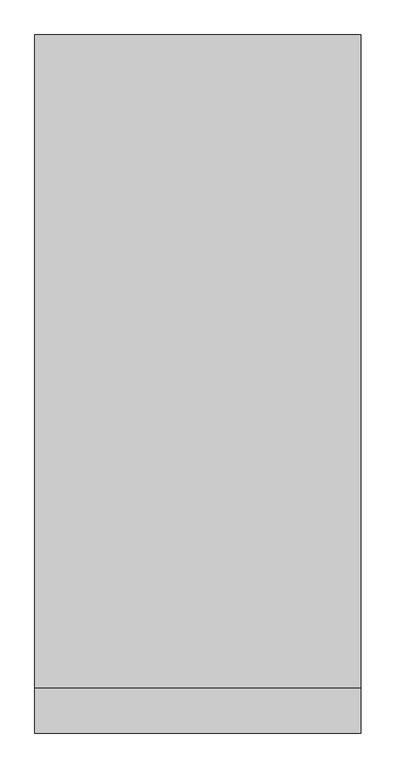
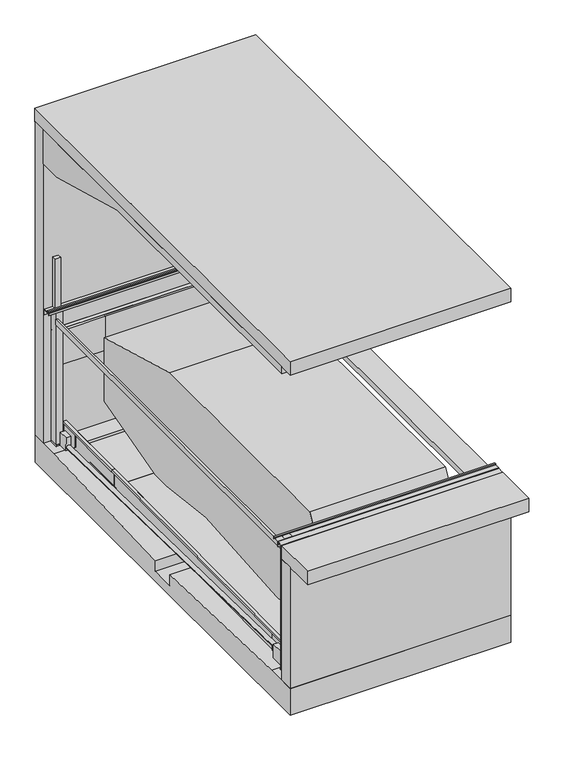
"""IFC4 building model written with IfcOpenShell, lengths in millimetres: proxy geometry, TrendVario_6100 : TrendVario_6100."""

import ifcopenshell
import ifcopenshell.guid

model = None  # the IFC model being written
_history = None  # IfcOwnerHistory: only IFC2X3 demands one
_inside = {}  # id of a spatial element -> (the spatial element, [elements in it])
_under = {}  # id of a project, library or spatial element -> (it, [spatial elements below it])
_declared = {}  # id of a project -> (the project, [libraries it declares])
_typed = {}  # id of a type object -> (the type object, [elements of that type])
_made_of = {}  # id of a material, layer set ... -> (it, [elements and type objects made of it])


def new_model(schema):
    """Start an empty IFC model of exactly this schema.

    Asked for "IFC4X3", IfcOpenShell would pick the latest addendum, in which some entities
    have other attributes; the version numbers below select the first issue.
    IFC2X3 requires an IfcOwnerHistory on every rooted entity: one is made here for all.
    """
    global model, _history
    if schema == "IFC4X3":
        model = ifcopenshell.file(schema_version=(4, 3, 0, 0))
    else:
        model = ifcopenshell.file(schema=schema)
    _inside.clear()
    _under.clear()
    _declared.clear()
    _typed.clear()
    _made_of.clear()
    _history = None
    if model.schema == "IFC2X3":
        org = make("IfcOrganization", Name="unknown")
        user = make(
            "IfcPersonAndOrganization",
            ThePerson=make("IfcPerson", FamilyName="unknown"),
            TheOrganization=org,
        )
        app = make(
            "IfcApplication",
            ApplicationDeveloper=org,
            Version="unknown",
            ApplicationFullName="unknown",
            ApplicationIdentifier="unknown",
        )
        _history = make(
            "IfcOwnerHistory",
            OwningUser=user,
            OwningApplication=app,
            ChangeAction="ADDED",
            CreationDate=0,
        )
    return model


def make(cls, **values):
    """One entity of the class cls with the attributes given. An attribute that is None is left unset."""
    return model.create_entity(
        cls, **{name: value for name, value in values.items() if value is not None}
    )


def rooted(cls, **values):
    """An entity with a GlobalId (a new one), such as an element, a storey or a relation."""
    return make(cls, GlobalId=ifcopenshell.guid.new(), OwnerHistory=_history, **values)


def si_unit(unit_type, name, prefix=None):
    """IfcSIUnit, for example si_unit("LENGTHUNIT", "METRE", prefix="MILLI")."""
    return make("IfcSIUnit", UnitType=unit_type, Prefix=prefix, Name=name)


def assignment(units):
    """IfcUnitAssignment: the units of a project."""
    return None if units is None else make("IfcUnitAssignment", Units=units)


def point(xyz):
    """IfcCartesianPoint."""
    return None if xyz is None else make("IfcCartesianPoint", Coordinates=xyz)


def direction(xyz):
    """IfcDirection."""
    return None if xyz is None else make("IfcDirection", DirectionRatios=xyz)


def frame(location, z_axis=None, x_axis=None):
    """IfcAxis2Placement3D, a coordinate frame: its origin and axes. An axis left out is left unset."""
    return make(
        "IfcAxis2Placement3D",
        Location=point(location),
        Axis=direction(z_axis),
        RefDirection=direction(x_axis),
    )


def frame_2d(location, x_axis=None):
    """IfcAxis2Placement2D, a coordinate frame in the plane: its origin and x axis."""
    return make(
        "IfcAxis2Placement2D", Location=point(location), RefDirection=direction(x_axis)
    )


def origin():
    """The frame at (0, 0, 0) with its axes left unset."""
    return frame((0.0, 0.0, 0.0))


def place(relative_to, where):
    """IfcLocalPlacement: puts the frame where relative to a parent placement (None: the world)."""
    return make(
        "IfcLocalPlacement", PlacementRelTo=relative_to, RelativePlacement=where
    )


def context(
    kind, dimensions, precision=None, world=None, true_north=None, identifier=None
):
    """IfcGeometricRepresentationContext, for example the 3D "Model" context."""
    return make(
        "IfcGeometricRepresentationContext",
        ContextIdentifier=identifier,
        ContextType=kind,
        CoordinateSpaceDimension=dimensions,
        Precision=precision,
        WorldCoordinateSystem=world,
        TrueNorth=true_north,
    )


def project(units=None, contexts=None):
    """IfcProject with its units and contexts."""
    return rooted(
        "IfcProject",
        Name="project",
        RepresentationContexts=contexts,
        UnitsInContext=assignment(units),
    )


def spatial(cls, under=None, at=None, **own):
    """A site, building, storey or space (cls), placed at a placement, below another one or the project."""
    s = rooted(cls, ObjectPlacement=at, **own)
    if under is not None:
        _under.setdefault(under.id(), (under, []))[1].append(s)
    return s


def polyline(points):
    """IfcPolyline through the points."""
    return make("IfcPolyline", Points=[point(p) for p in points])


def circle_curve(where, radius):
    """IfcCircle in the frame where."""
    return make("IfcCircle", Position=where, Radius=radius)


def trimmed(basis, trim1, trim2, sense, master):
    """IfcTrimmedCurve: the piece of a basis curve between two trims."""
    return make(
        "IfcTrimmedCurve",
        BasisCurve=basis,
        Trim1=trim1,
        Trim2=trim2,
        SenseAgreement=sense,
        MasterRepresentation=master,
    )


def segment(curve, same_sense, transition):
    """IfcCompositeCurveSegment."""
    return make(
        "IfcCompositeCurveSegment",
        Transition=transition,
        SameSense=same_sense,
        ParentCurve=curve,
    )


def composite_curve(segments, self_intersect=None):
    """IfcCompositeCurve: segments joined end to end."""
    return make("IfcCompositeCurve", Segments=segments, SelfIntersect=self_intersect)


def outline(outer, holes=None, kind="AREA"):
    """IfcArbitraryClosedProfileDef: a profile drawn as a closed curve; with holes, ...WithVoids."""
    if holes is None:
        return make("IfcArbitraryClosedProfileDef", ProfileType=kind, OuterCurve=outer)
    return make(
        "IfcArbitraryProfileDefWithVoids",
        ProfileType=kind,
        OuterCurve=outer,
        InnerCurves=holes,
    )


def extrude(swept, where, along, depth):
    """IfcExtrudedAreaSolid: the profile swept, set in the frame where, extruded along a direction by depth."""
    return make(
        "IfcExtrudedAreaSolid",
        SweptArea=swept,
        Position=where,
        ExtrudedDirection=direction(along),
        Depth=depth,
    )


def faces_of(points, faces, orient=None, outer=None):
    """IfcFace entities. A face is a list of loops; a loop is a list of indices into points, from 0.

    orient and outer hold one flag for each loop. By default every Orientation is true, the
    first loop of a face is its IfcFaceOuterBound and the others are IfcFaceBound.
    """
    made = []
    for i, loops in enumerate(faces):
        bounds = []
        for j, loop in enumerate(loops):
            is_outer = j == 0 if outer is None else outer[i][j]
            bounds.append(
                make(
                    "IfcFaceOuterBound" if is_outer else "IfcFaceBound",
                    Bound=make("IfcPolyLoop", Polygon=[points[k] for k in loop]),
                    Orientation=True if orient is None else orient[i][j],
                )
            )
        made.append(make("IfcFace", Bounds=bounds))
    return made


def faceted_brep(points, faces, orient=None, outer=None, voids=None):
    """IfcFacetedBrep: a solid bounded by flat faces; with voids (closed shells), ...WithVoids."""
    shared = [point(p) for p in points]
    hull = make("IfcClosedShell", CfsFaces=faces_of(shared, faces, orient, outer))
    if voids is None:
        return make("IfcFacetedBrep", Outer=hull)
    return make(
        "IfcFacetedBrepWithVoids",
        Outer=hull,
        Voids=[
            make(cls, CfsFaces=faces_of(shared, fs, o, b)) for cls, fs, o, b in voids
        ],
    )


def shape(context_of_items, identifier, shape_type, items):
    """IfcShapeRepresentation: the items that make up one representation, for example the "Body"."""
    return make(
        "IfcShapeRepresentation",
        ContextOfItems=context_of_items,
        RepresentationIdentifier=identifier,
        RepresentationType=shape_type,
        Items=items,
    )


def source(mapping_origin, context_of_items, identifier, shape_type, items):
    """IfcRepresentationMap: a shape defined once, which mapped items show again and again."""
    return make(
        "IfcRepresentationMap",
        MappingOrigin=mapping_origin,
        MappedRepresentation=shape(context_of_items, identifier, shape_type, items),
    )


def transform(
    local_origin,
    x_axis=None,
    y_axis=None,
    z_axis=None,
    scale=None,
    scale2=None,
    scale3=None,
    uniform=True,
):
    """IfcCartesianTransformationOperator3D, or its non-uniform kind. x_axis, y_axis, z_axis: its Axis1, 2, 3."""
    if uniform:
        return make(
            "IfcCartesianTransformationOperator3D",
            Axis1=direction(x_axis),
            Axis2=direction(y_axis),
            LocalOrigin=point(local_origin),
            Scale=scale,
            Axis3=direction(z_axis),
        )
    return make(
        "IfcCartesianTransformationOperator3DnonUniform",
        Axis1=direction(x_axis),
        Axis2=direction(y_axis),
        LocalOrigin=point(local_origin),
        Scale=scale,
        Axis3=direction(z_axis),
        Scale2=scale2,
        Scale3=scale3,
    )


def mapped(mapping_source, mapping_target):
    """IfcMappedItem: shows the shape of a source again, moved by a transform."""
    return make(
        "IfcMappedItem", MappingSource=mapping_source, MappingTarget=mapping_target
    )


def made_of(thing, what):
    """Note that an element or type object is made of a material, layer set ...; save() writes the relation."""
    if what is not None:
        _made_of.setdefault(what.id(), (what, []))[1].append(thing)
    return thing


def element(
    cls,
    number,
    at=None,
    inside=None,
    cuts=None,
    type_object=None,
    material=None,
    context=None,
    identifier="Body",
    shape_type=None,
    held_by="IfcProductDefinitionShape",
    body=None,
    shapes=None,
    **own,
):
    """One element of the class cls, such as IfcWall. Its Tag is "e" and its number.

    at: its placement. inside: the storey or other place that contains it. cuts: it is an
    opening in that element (IfcRelVoidsElement). A single representation is given by context,
    identifier, shape_type and body (its items); several are given by shapes. held_by: the class
    of the entity that holds the representations. save() writes the other relations.
    """
    e = rooted(cls, Tag="e%d" % number, ObjectPlacement=at, **own)
    if body is not None:
        shapes = [shape(context, identifier, shape_type, body)]
    if shapes is not None:
        e.Representation = make(held_by, Representations=shapes)
    if inside is not None:
        _inside.setdefault(inside.id(), (inside, []))[1].append(e)
    if cuts is not None:
        rooted(
            "IfcRelVoidsElement", RelatingBuildingElement=cuts, RelatedOpeningElement=e
        )
    if type_object is not None:
        _typed.setdefault(type_object.id(), (type_object, []))[1].append(e)
    return made_of(e, material)


def aggregate(whole, parts):
    """IfcRelAggregates: a whole, such as a stair, and the parts it consists of."""
    return rooted("IfcRelAggregates", RelatingObject=whole, RelatedObjects=parts)


def save(model, path):
    """Write the relations noted so far, then the file.

    IfcRelAggregates (storeys below a building ...), IfcRelContainedInSpatialStructure (elements
    in a storey), IfcRelDefinesByType, IfcRelAssociatesMaterial and IfcRelDeclares: one each for
    every whole, place, type object, material and project.
    """
    for whole, parts in _under.values():
        aggregate(whole, parts)
    for where, things in _inside.values():
        rooted(
            "IfcRelContainedInSpatialStructure",
            RelatedElements=things,
            RelatingStructure=where,
        )
    for kind, things in _typed.values():
        rooted("IfcRelDefinesByType", RelatedObjects=things, RelatingType=kind)
    for what, things in _made_of.values():
        rooted("IfcRelAssociatesMaterial", RelatedObjects=things, RelatingMaterial=what)
    for by, libraries in _declared.values():
        rooted("IfcRelDeclares", RelatingContext=by, RelatedDefinitions=libraries)
    model.write(path)


def generic_models_6560fc60(model_context):
    return source(origin(), model_context, "Body", "SolidModel", [
        extrude(outline(composite_curve([segment(trimmed(circle_curve(frame_2d((-273.0, 50.2890841)), 6.0), [point((-273.0, 44.2890841))], [point((-273.0, 56.2890841))], False, "CARTESIAN"), True, "CONTINUOUS"), segment(trimmed(circle_curve(frame_2d((-273.0, 50.2890841)), 6.0), [point((-273.0, 56.2890841))], [point((-273.0, 44.2890841))], False, "CARTESIAN"), True, "CONTINUOUS")], self_intersect=False)), frame((0.0, 5774.7632152, 0.0), z_axis=(0.0, 1.0, 0.0), x_axis=(0.0, 0.0, 1.0)), (0.0, 0.0, 1.0), 150.0),
        extrude(outline(composite_curve([segment(trimmed(circle_curve(frame_2d((-273.0, 2650.0)), 6.0), [point((-267.0, 2650.0))], [point((-279.0, 2650.0))], False, "CARTESIAN"), True, "CONTINUOUS"), segment(trimmed(circle_curve(frame_2d((-273.0, 2650.0)), 6.0), [point((-279.0, 2650.0))], [point((-267.0, 2650.0))], False, "CARTESIAN"), True, "CONTINUOUS")], self_intersect=False)), frame((0.0, 5769.5664345, 0.0), z_axis=(0.0, 1.0, 0.0), x_axis=(0.0, 0.0, 1.0)), (0.0, 0.0, 1.0), 150.0),
        extrude(outline(composite_curve([segment(trimmed(circle_curve(frame_2d((-273.0, 2650.0)), 6.0), [point((-267.0, 2650.0))], [point((-279.0, 2650.0))], False, "CARTESIAN"), True, "CONTINUOUS"), segment(trimmed(circle_curve(frame_2d((-273.0, 2650.0)), 6.0), [point((-279.0, 2650.0))], [point((-267.0, 2650.0))], False, "CARTESIAN"), True, "CONTINUOUS")], self_intersect=False)), frame((0.0, -50.0, 0.0), z_axis=(0.0, 1.0, 0.0), x_axis=(0.0, 0.0, 1.0)), (0.0, 0.0, 1.0), 150.0),
        extrude(outline(composite_curve([segment(trimmed(circle_curve(frame_2d((-273.0, 50.0)), 6.0), [point((-273.0, 56.0))], [point((-273.0, 44.0))], False, "CARTESIAN"), True, "CONTINUOUS"), segment(trimmed(circle_curve(frame_2d((-273.0, 50.0)), 6.0), [point((-273.0, 44.0))], [point((-273.0, 56.0))], False, "CARTESIAN"), True, "CONTINUOUS")], self_intersect=False)), frame((0.0, -50.0, 0.0), z_axis=(0.0, 1.0, 0.0), x_axis=(0.0, 0.0, 1.0)), (0.0, 0.0, 1.0), 150.0),
        extrude(outline(composite_curve([segment(trimmed(circle_curve(frame_2d((145.0, 150.0)), 6.0), [point((139.0, 150.0))], [point((151.0, 150.0))], False, "CARTESIAN"), True, "CONTINUOUS"), segment(trimmed(circle_curve(frame_2d((145.0, 150.0)), 6.0), [point((151.0, 150.0))], [point((139.0, 150.0))], False, "CARTESIAN"), True, "CONTINUOUS")], self_intersect=False)), frame((0.0, 0.0, -2150.0), z_axis=(0.0, 0.0, 1.0), x_axis=(1.0, 0.0, 0.0)), (0.0, 0.0, 1.0), 150.0),
        extrude(outline(composite_curve([segment(trimmed(circle_curve(frame_2d((2555.0, 150.0)), 6.0), [point((2549.0, 150.0))], [point((2561.0, 150.0))], False, "CARTESIAN"), True, "CONTINUOUS"), segment(trimmed(circle_curve(frame_2d((2555.0, 150.0)), 6.0), [point((2561.0, 150.0))], [point((2549.0, 150.0))], False, "CARTESIAN"), True, "CONTINUOUS")], self_intersect=False)), frame((0.0, 0.0, -2150.0), z_axis=(0.0, 0.0, 1.0), x_axis=(1.0, 0.0, 0.0)), (0.0, 0.0, 1.0), 150.0),
        extrude(outline(composite_curve([segment(trimmed(circle_curve(frame_2d((2555.0, 5722.5588178)), 6.0), [point((2549.0, 5722.5588178))], [point((2561.0, 5722.5588178))], False, "CARTESIAN"), True, "CONTINUOUS"), segment(trimmed(circle_curve(frame_2d((2555.0, 5722.5588178)), 6.0), [point((2561.0, 5722.5588178))], [point((2549.0, 5722.5588178))], False, "CARTESIAN"), True, "CONTINUOUS")], self_intersect=False)), frame((0.0, 0.0, -2150.0), z_axis=(0.0, 0.0, 1.0), x_axis=(1.0, 0.0, 0.0)), (0.0, 0.0, 1.0), 150.0),
        extrude(outline(polyline([(320.0, 0.0), (3.0, 0.0), (3.0, -49.0), (49.9999999, -49.0), (49.9999999, -89.0), (47.0, -89.0), (47.0, -52.0), (0.0, -52.0), (0.0, 3.0), (317.0, 3.0), (317.0, 40.0), (290.0, 40.0), (290.0, 43.0), (320.0, 43.0), (320.0, 0.0)])), frame((2600.0, 237.7412679, -1960.4094164), z_axis=(0.0, 0.9999619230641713, 0.008726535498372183), x_axis=(0.0, -0.008726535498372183, 0.9999619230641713)), (0.0, 0.0, 1.0), 4178.0),
        extrude(outline(polyline([(1941.867435, 0.0), (1941.867435, -1000.0), (-1962.132565, -1000.0), (-1962.132565, 0.0), (1941.867435, 0.0)])), frame((1600.0, 2473.3523611, -1890.89763), z_axis=(0.0, -0.008726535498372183, 0.9999619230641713), x_axis=(0.0, 0.9999619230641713, 0.008726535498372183)), (0.0, 0.0, 1.0), 8.0),
        extrude(outline(polyline([(0.0, -136.0), (0.0, 0.0), (67.0, 0.0), (67.0, -136.0), (0.0, -136.0)])), frame((20.0, 5591.7992407, -1943.6900531), z_axis=(0.0, -0.008726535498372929, 0.9999619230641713), x_axis=(1.0, 0.0, 0.0)), (0.0, 0.0, 1.0), 195.0),
        extrude(outline(polyline([(5613.3985296, -1668.4910874), (5616.1473883, -1983.4790932), (5481.1525287, -1984.6571755), (5344.9795868, -1850.8403982), (5342.7979529, -1600.8499174), (5582.7888144, -1598.7555489), (5583.3996719, -1668.7528835), (5613.3985296, -1668.4910874)])), frame((87.0, 0.0, 0.0), z_axis=(1.0, 0.0, 0.0), x_axis=(0.0, 1.0, 0.0)), (0.0, 0.0, 1.0), 10.0),
        extrude(outline(polyline([(0.0, -1500.0), (0.0, 0.0), (1170.0, 0.0), (1170.0, -1500.0), (0.0, -1500.0)])), frame((100.0, 4415.1458963, -1873.955505), z_axis=(0.0, -0.008726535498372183, 0.9999619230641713), x_axis=(0.0, 0.9999619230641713, 0.008726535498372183)), (0.0, 0.0, 1.0), 8.0),
        extrude(outline(polyline([(5346.6566288, -1813.8243539), (5584.6475665, -1811.7474385), (5585.031534, -1855.7457631), (5582.0316483, -1855.7719427), (5581.6738603, -1814.7735039), (5349.6826942, -1816.7980601), (5350.0404821, -1857.7964989), (5347.0405963, -1857.8226786), (5346.6566288, -1813.8243539)])), frame((100.0, 0.0, 0.0), z_axis=(1.0, 0.0, 0.0), x_axis=(0.0, 1.0, 0.0)), (0.0, 0.0, 1.0), 1500.0),
        extrude(outline(polyline([(320.0, 0.0), (320.0, -43.0), (290.0, -43.0), (290.0, -40.0), (317.0, -40.0), (317.0, -3.0), (0.0, -3.0), (0.0, 52.0), (47.0, 52.0), (47.0, 89.0), (50.0, 89.0), (50.0, 49.0), (3.0, 49.0), (3.0, 0.0), (320.0, 0.0)])), frame((100.0, 4415.5822231, -1923.9536012), z_axis=(0.0, 0.9999619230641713, 0.008726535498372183), x_axis=(0.0, -0.008726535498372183, 0.9999619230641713)), (0.0, 0.0, 1.0), 1170.0),
        extrude(outline(composite_curve([segment(trimmed(circle_curve(frame_2d((145.0, 5722.5588178)), 6.0), [point((139.0, 5722.5588178))], [point((151.0, 5722.5588178))], False, "CARTESIAN"), True, "CONTINUOUS"), segment(trimmed(circle_curve(frame_2d((145.0, 5722.5588178)), 6.0), [point((151.0, 5722.5588178))], [point((139.0, 5722.5588178))], False, "CARTESIAN"), True, "CONTINUOUS")], self_intersect=False)), frame((0.0, 0.0, -2150.0), z_axis=(0.0, 0.0, 1.0), x_axis=(1.0, 0.0, 0.0)), (0.0, 0.0, 1.0), 150.0),
        extrude(outline(polyline([(5999.9581167, -2000.0), (5999.9581167, -2400.0), (-200.0, -2400.0), (-200.0, -2000.0), (250.0, -2000.0), (2725.0057083, -2086.4291038), (2725.0057083, -2247.5791163), (3075.0057083, -2247.5791163), (3075.0057083, -2086.4272426), (5549.9581167, -2000.0), (5999.9581167, -2000.0)])), frame((-100.0, 0.0, 0.0), z_axis=(1.0, 0.0, 0.0), x_axis=(0.0, 1.0, 0.0)), (0.0, 0.0, 1.0), 3099.0),
        extrude(outline(polyline([(0.0, 5671.7632152), (30.0, 5671.7632152), (30.0, 200.0), (0.0, 200.0), (0.0, 5671.7632152)])), frame((0.0, 0.0, -200.0), z_axis=(0.0, 0.0, 1.0), x_axis=(1.0, 0.0, 0.0)), (0.0, 0.0, 1.0), 80.0),
        extrude(outline(polyline([(164.0, 210.0), (164.0, 90.0), (0.0, 90.0), (0.0, 210.0), (164.0, 210.0)])), frame((0.0, 0.0, -2000.0), z_axis=(0.0, 0.0, 1.0), x_axis=(1.0, 0.0, 0.0)), (0.0, 0.0, 1.0), 18.0),
        extrude(outline(polyline([(164.0, 5784.7632152), (164.0, 5661.7632152), (0.0, 5661.7632152), (0.0, 5784.7632152), (164.0, 5784.7632152)])), frame((0.0, 0.0, -2000.0), z_axis=(0.0, 0.0, 1.0), x_axis=(1.0, 0.0, 0.0)), (0.0, 0.0, 1.0), 18.0),
        extrude(outline(polyline([(2536.0, 5779.5664345), (2700.0, 5779.5664345), (2700.0, 5659.5664345), (2536.0, 5659.5664345), (2536.0, 5779.5664345)])), frame((0.0, 0.0, -2000.0), z_axis=(0.0, 0.0, 1.0), x_axis=(1.0, 0.0, 0.0)), (0.0, 0.0, 1.0), 18.0),
        extrude(outline(polyline([(2536.0, 90.0), (2536.0, 210.0), (2700.0, 210.0), (2700.0, 90.0), (2536.0, 90.0)])), frame((0.0, 0.0, -2000.0), z_axis=(0.0, 0.0, 1.0), x_axis=(1.0, 0.0, 0.0)), (0.0, 0.0, 1.0), 18.0),
        extrude(outline(composite_curve([segment(trimmed(circle_curve(frame_2d((-34.8939913, -3.2601795)), 30.0), [point((-64.8939913, -3.2601795))], [point((-4.8939913, -3.2601795))], False, "CARTESIAN"), True, "CONTINUOUS"), segment(trimmed(circle_curve(frame_2d((-34.8939913, -3.2601795)), 30.0), [point((-4.8939913, -3.2601795))], [point((-64.8939913, -3.2601795))], False, "CARTESIAN"), True, "CONTINUOUS")], self_intersect=False)), frame((20.0, 5455.4339411, -1902.4242792), z_axis=(0.0, -0.9997806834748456, 0.02094241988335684), x_axis=(-1.0, 0.0, 0.0)), (0.0, 0.0, 1.0), 5042.7986422),
        extrude(outline(composite_curve([segment(trimmed(circle_curve(frame_2d((39.6709454, 48.2295861)), 30.0), [point((9.6709454, 48.2295861))], [point((69.6709454, 48.2295861))], False, "CARTESIAN"), True, "CONTINUOUS"), segment(trimmed(circle_curve(frame_2d((39.6709454, 48.2295861)), 30.0), [point((69.6709454, 48.2295861))], [point((9.6709454, 48.2295861))], False, "CARTESIAN"), True, "CONTINUOUS")], self_intersect=False)), frame((2603.0, 5455.8267219, -1947.4325068), z_axis=(0.0, -0.9997806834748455, 0.020942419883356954), x_axis=(1.0, 0.0, 0.0)), (0.0, 0.0, 1.0), 5043.1761415),
        faceted_brep([(2670.0, 210.0, -120.0), (2670.0, 210.0, -200.0), (3000.0, 210.0, -200.0), (3000.0, 210.0, -120.0), (3000.0, 5659.5664345, -120.0), (3000.0, 5659.5664345, -200.0), (2673.0, 5659.5664345, -200.0), (2673.0, 5659.5664345, -120.0), (2670.0, 232.7875088, -120.0), (2670.0, 232.7875088, -200.0), (2670.0, 5656.8533035, -120.0), (2670.0, 5635.4173681, -200.0), (2670.0, 254.2234442, -200.0), (2673.0, 232.7875088, -200.0), (2673.0, 254.2234442, -200.0), (2673.0, 5635.4173681, -200.0), (2673.0, 5656.8533035, -120.0), (2673.0, 232.7875088, -120.0)], [[[0, 1, 2, 3]], [[4, 5, 6, 7]], [[1, 0, 8, 9]], [[10, 11, 12, 8]], [[2, 1, 9, 13, 14, 12, 11, 15, 6, 5]], [[3, 2, 5, 4]], [[0, 3, 4, 7, 16, 10, 8]], [[15, 16, 7, 6]], [[16, 15, 11, 10]], [[17, 14, 13]], [[8, 17, 13, 9]], [[17, 8, 12, 14]]]),
        extrude(outline(polyline([(2700.0, 5669.5664345), (2600.0, 5669.5664345), (2600.0, 5769.5664345), (2700.0, 5769.5664345), (2700.0, 5669.5664345)])), frame((0.0, 0.0, -2000.0), z_axis=(0.0, 0.0, 1.0), x_axis=(1.0, 0.0, 0.0)), (0.0, 0.0, 1.0), 2000.0),
        extrude(outline(polyline([(237.7566323, -1940.8501873), (236.1472757, -1756.4361785), (413.7566323, -1756.4361785), (413.7566323, -1939.3142585), (237.7566323, -1940.8501873)])), frame((2613.0, 0.0, 0.0), z_axis=(1.0, 0.0, 0.0), x_axis=(0.0, 1.0, 0.0)), (0.0, 0.0, 1.0), 70.0),
        extrude(outline(polyline([(237.7412679, -1960.4094164), (235.9626972, -1756.6053926), (413.7412679, -1756.6053926), (413.7412679, -1958.8734877), (237.7412679, -1960.4094164)])), frame((20.0, 0.0, 0.0), z_axis=(1.0, 0.0, 0.0), x_axis=(0.0, 1.0, 0.0)), (0.0, 0.0, 1.0), 70.0),
        extrude(outline(polyline([(0.0, -136.0), (0.0, 0.0), (67.0, 0.0), (67.0, -136.0), (0.0, -136.0)])), frame((2610.0, 5591.7992407, -1943.6900531), z_axis=(0.0, -0.008726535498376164, 0.9999619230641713), x_axis=(1.0, 0.0, 0.0)), (0.0, 0.0, 1.0), 195.0),
        extrude(outline(polyline([(2600.0, 200.0), (2700.0, 200.0), (2700.0, 100.0), (2600.0, 100.0), (2600.0, 200.0)])), frame((0.0, 0.0, -2000.0), z_axis=(0.0, 0.0, 1.0), x_axis=(1.0, 0.0, 0.0)), (0.0, 0.0, 1.0), 2000.0),
        extrude(outline(composite_curve([segment(polyline([(5620.0145776, -585.9914336), (5620.0145776, -1335.9999998), (5618.0221903, -1335.9999998), (5618.0221903, -1527.7646518), (4313.3699728, -1877.3451599)]), True, "CONTINUOUS"), segment(trimmed(circle_curve(frame_2d((4247.6299354, -1632.0)), 254.0), [point((4313.3699728, -1877.3451599))], [point((4224.7221662, -1884.9648871))], False, "CARTESIAN"), True, "CONTINUOUS"), segment(polyline([(4224.7221662, -1884.9648871), (3145.3807126, -1751.0), (1424.180165, -1884.6085614)]), True, "CONTINUOUS"), segment(trimmed(circle_curve(frame_2d((1397.6299354, -1632.0)), 254.0), [point((1424.180165, -1884.6085614))], [point((1340.4923675, -1879.4899965))], False, "CARTESIAN"), True, "CONTINUOUS"), segment(polyline([(1340.4923675, -1879.4899965), (320.456461, -1643.9961518), (320.456461, -689.5033287), (622.3673675, -136.0), (4020.0450351, -135.9999998), (5620.0145776, -585.9914336)]), True, "CONTINUOUS")], self_intersect=False)), frame((650.0, 0.0, 0.0), z_axis=(1.0, 0.0, 0.0), x_axis=(0.0, 1.0, 0.0)), (0.0, 0.0, 1.0), 1900.0),
        extrude(outline(polyline([(2999.0, -200.0), (-100.0, -200.0), (-100.0, 0.0), (2999.0, 0.0), (2999.0, -200.0)])), frame((0.0, 0.0, -2000.0), z_axis=(0.0, 0.0, 1.0), x_axis=(1.0, 0.0, 0.0)), (0.0, 0.0, 1.0), 1800.0),
        faceted_brep([(100.0, 4412.2895056, -1603.966424), (100.0, 4415.0558174, -1920.9543536), (149.0, 4415.0558174, -1920.9543536), (149.0, 4414.6456702, -1873.9561432), (189.0, 4414.6456702, -1873.9561432), (189.0, 4414.6718498, -1876.956029), (152.0, 4414.6718498, -1876.956029), (152.0, 4415.081997, -1923.9542393), (97.0, 4415.081997, -1923.9542393), (97.0, 4412.3156852, -1606.9663097), (60.0, 4412.3156852, -1606.9663097), (60.0, 4412.5513017, -1633.9652817), (57.0, 4412.5513017, -1633.9652817), (57.0, 4412.2895056, -1603.966424), (100.0, 237.741276, -1960.4093395), (100.0, 234.9487847, -1640.4215242), (57.0, 234.9487847, -1640.4215242), (57.0, 235.2105807, -1670.4203818), (60.0, 235.2105807, -1670.4203818), (60.0, 234.9749643, -1643.4214099), (97.0, 234.9749643, -1643.4214099), (97.0, 237.741276, -1960.4093395), (100.0, 337.7374683, -1959.536686), (100.0, 337.7112887, -1956.5368002), (149.0, 337.7112887, -1956.5368002), (149.0, 337.3011416, -1909.5385898), (189.0, 337.3011416, -1909.5385898), (189.0, 337.3273212, -1912.5384756), (152.0, 337.3273212, -1912.5384756), (152.0, 337.7374683, -1959.536686)], [[[0, 1, 2, 3, 4, 5, 6, 7, 8, 9, 10, 11, 12, 13]], [[14, 15, 16, 17, 18, 19, 20, 21]], [[1, 0, 15, 14, 22, 23]], [[2, 1, 23, 24]], [[3, 2, 24, 25]], [[4, 3, 25, 26]], [[5, 4, 26, 27]], [[6, 5, 27, 28]], [[7, 6, 28, 29]], [[8, 7, 29, 22, 14, 21]], [[9, 8, 21, 20]], [[10, 9, 20, 19]], [[11, 10, 19, 18]], [[12, 11, 18, 17]], [[13, 12, 17, 16]], [[0, 13, 16, 15]], [[23, 22, 29, 28, 27, 26, 25, 24]]]),
        extrude(outline(polyline([(556.8174373, -1957.6248809), (237.7412679, -1960.4094164), (235.9626972, -1756.6053926), (322.913076, -1669.6550138), (556.8174373, -1667.6137613), (556.8174373, -1957.6248809)])), frame((90.0, 0.0, 0.0), z_axis=(1.0, 0.0, 0.0), x_axis=(0.0, 1.0, 0.0)), (0.0, 0.0, 1.0), 10.0),
        extrude(outline(polyline([(342.6444987, -1649.9235911), (556.8174373, -1648.0545322), (556.8174373, -1938.0656517), (237.7412679, -1940.8501873), (236.1319113, -1756.4361785), (342.6444987, -1649.9235911)])), frame((2603.0, 0.0, 0.0), z_axis=(1.0, 0.0, 0.0), x_axis=(0.0, 1.0, 0.0)), (0.0, 0.0, 1.0), 10.0),
        extrude(outline(polyline([(5582.7713613, -1596.755625), (5583.3996719, -1668.7528835), (5613.3985296, -1668.4910874), (5616.1473883, -1983.4790932), (5481.1525287, -1984.6571755), (5344.9795868, -1850.8403982), (5342.7804998, -1598.8499935), (5582.7713613, -1596.755625)])), frame((2600.0, 0.0, 0.0), z_axis=(1.0, 0.0, 0.0), x_axis=(0.0, 1.0, 0.0)), (0.0, 0.0, 1.0), 10.0),
        extrude(outline(polyline([(2600.0, 511.2945081), (2600.0, 241.2945081), (100.0, 241.2945081), (100.0, 511.2945081), (2600.0, 511.2945081)])), frame((0.0, 0.0, -1888.4610204), z_axis=(0.0, 0.0, 1.0), x_axis=(1.0, 0.0, 0.0)), (0.0, 0.0, 1.0), 30.0),
        extrude(outline(polyline([(319.9999232, -43.0), (2.9999232, -43.0), (2.9999232, -92.0), (49.9999231, -92.0), (49.9999231, -132.0), (46.9999232, -132.0), (46.9999232, -95.0), (-7.68e-05, -95.0), (-7.68e-05, -40.0), (316.9999232, -40.0), (316.9999232, -3.0), (289.9999232, -3.0), (289.9999232, 0.0), (319.9999232, 0.0), (319.9999232, -43.0)])), frame((2643.0, 4415.5821906, -1923.9498742), z_axis=(0.0, 0.9999619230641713, 0.008726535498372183), x_axis=(0.0, -0.008726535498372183, 0.9999619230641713)), (0.0, 0.0, 1.0), 1183.1966017),
        extrude(outline(polyline([(100.4126792, 0.0), (100.4126792, -1170.5002127), (-899.5873208, -1170.5002127), (-899.5873208, 0.0), (100.4126792, 0.0)])), frame((2499.5873208, 5585.1013463, -1863.7454585), z_axis=(0.0, -0.008726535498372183, 0.9999619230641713), x_axis=(1.0, 0.0, 0.0)), (0.0, 0.0, 1.0), 8.0),
        extrude(outline(polyline([(5587.3833555, -1811.7198364), (5587.767323, -1855.718161), (5584.7674373, -1855.7443406), (5584.4096493, -1814.7459018), (5352.4184831, -1816.770458), (5352.7762711, -1857.7688968), (5349.7763853, -1857.7950764), (5349.3924178, -1813.7967518), (5587.3833555, -1811.7198364)])), frame((1600.0, 0.0, 0.0), z_axis=(1.0, 0.0, 0.0), x_axis=(0.0, 1.0, 0.0)), (0.0, 0.0, 1.0), 1000.0),
        extrude(outline(polyline([(2038.9337722, 0.0), (2038.9337722, -1500.0), (-1864.3763713, -1500.0), (-1864.3763713, 0.0), (2038.9337722, 0.0)])), frame((1600.0, 2550.3403211, -1890.2294167), z_axis=(0.0, -0.008726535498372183, 0.9999619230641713), x_axis=(0.0, -0.9999619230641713, -0.008726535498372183)), (0.0, 0.0, 1.0), 8.0),
        extrude(outline(polyline([(-100.0, 5677.3612215), (-100.0, 5702.3612215), (2999.0, 5702.3612215), (2999.0, 5677.3612215), (-100.0, 5677.3612215)])), frame((0.0, 0.0, 8.0), z_axis=(0.0, 0.0, 1.0), x_axis=(1.0, 0.0, 0.0)), (0.0, 0.0, 1.0), 15.0),
        extrude(outline(polyline([(5778.1588219, 0.0), (5778.1588219, -80.0), (5775.1766811, -80.0), (5775.1766811, -3.0), (5669.5588219, -3.0), (5669.5588219, -30.0), (5666.5588219, -30.0), (5666.5588219, 0.0), (5778.1588219, 0.0)])), frame((-100.0, 0.0, 0.0), z_axis=(1.0, 0.0, 0.0), x_axis=(0.0, 1.0, 0.0)), (0.0, 0.0, 1.0), 3099.0),
        extrude(outline(polyline([(-100.0, -630.5625149), (-100.0, 0.0), (2999.0, 0.0), (2999.0, -630.5625149), (-100.0, -630.5625149)])), frame((0.0, 0.0, -200.0), z_axis=(0.0, 0.0, 1.0), x_axis=(1.0, 0.0, 0.0)), (0.0, 0.0, 1.0), 200.0),
        faceted_brep([(100.0, 200.0, 8.0), (0.0, 200.0, 8.0), (0.0, 100.0, 8.0), (100.0, 100.0, 8.0), (100.0, 200.0, -2000.0), (100.0, 100.0, -2000.0), (0.0, 100.0, -2000.0), (0.0, 200.0, -2000.0), (0.0, 100.0, -1.0), (0.0, 100.0, 0.0), (100.0, 100.0, -1.0), (100.0, 100.0, 0.0)], [[[0, 1, 2, 3]], [[4, 5, 6, 7]], [[1, 0, 4, 7]], [[2, 1, 7, 6, 8, 9]], [[3, 2, 9, 8, 6, 5, 10, 11]], [[0, 3, 11, 10, 5, 4]]]),
        faceted_brep([(2999.0, 5467.6439919, 2151.0), (2999.0, 3999.9276592, 2551.0062257), (-100.0, 3999.9505029, 2551.0), (-100.0, 5467.6439919, 2151.0), (2999.0, 5799.9276592, 2151.0), (2999.0, 5799.9276592, 2651.0), (2999.0, 0.0, 2651.0), (2999.0, 0.0, 2551.0), (-100.0, 5799.9276592, 2651.0), (-100.0, 5799.9276592, 2151.0), (-100.0, 0.0, 2551.0), (-100.0, 0.0, 2651.0)], [[[0, 1, 2, 3]], [[4, 5, 6, 7, 1, 0]], [[8, 9, 3, 2, 10, 11]], [[5, 4, 9, 8]], [[6, 5, 8, 11]], [[9, 4, 0, 3]], [[7, 10, 2, 1]], [[7, 6, 11, 10]]]),
        faceted_brep([(97.0, 5714.7632152, -1.0), (97.0, 5771.7632152, -1.0), (100.0, 5771.7632152, -1.0), (100.0, 5711.7632152, -1.0), (22.0, 5711.7632152, -1.0), (22.0, 5714.7632152, -1.0), (100.0, 5771.7632152, 0.0), (97.0, 5771.7632152, 0.0), (97.0, 5714.7632152, 0.0), (22.0, 5714.7632152, 0.0), (22.0, 5711.7632152, 0.0), (100.0, 5711.7632152, 0.0), (97.0, 5714.7632152, 0.0), (97.0, 5774.7632152, 740.0), (22.0, 5774.7632152, 740.0), (22.0, 5714.7632152, 740.0), (97.0, 5714.7632152, 740.0), (22.0, 5774.7632152, 0.0), (97.0, 5774.7632152, 0.0), (22.0, 5771.7632152, 0.0)], [[[0, 1, 2, 3, 4, 5]], [[6, 7, 8, 9, 10, 11]], [[3, 2, 6, 11]], [[1, 0, 12, 7]], [[13, 14, 15, 16]], [[17, 18, 7, 12, 9, 19]], [[13, 16, 8, 7, 18]], [[16, 15, 9, 8]], [[15, 14, 17, 19, 9]], [[14, 13, 18, 17]], [[2, 1, 7, 6]], [[5, 9, 12, 0]], [[5, 4, 10, 9]], [[4, 3, 11, 10]]]),
        faceted_brep([(100.0, 5671.7632152, -3.0), (100.0, 5774.7632152, -3.0), (0.0, 5774.7632152, -3.0), (0.0, 5671.7632152, -3.0), (100.0, 5671.7632152, -2000.0), (0.0, 5671.7632152, -2000.0), (0.0, 5774.7632152, -2000.0), (100.0, 5774.7632152, -2000.0)], [[[0, 1, 2, 3]], [[4, 5, 6, 7]], [[1, 0, 4, 7]], [[2, 1, 7, 6]], [[3, 2, 6, 5]], [[0, 3, 5, 4]]]),
        extrude(outline(polyline([(0.0, 5721.7632152), (0.0, 5774.7632152), (2999.0, 5774.7632152), (2999.0, 5721.7632152), (0.0, 5721.7632152)])), frame((0.0, 0.0, -352.0), z_axis=(0.0, 0.0, 1.0), x_axis=(1.0, 0.0, 0.0)), (0.0, 0.0, 1.0), 25.0),
        extrude(outline(polyline([(700.0, 5769.5664345), (700.0, 5684.5664345), (100.0, 5684.5664345), (100.0, 5769.5664345), (700.0, 5769.5664345)])), frame((0.0, 0.0, -827.0), z_axis=(0.0, 0.0, 1.0), x_axis=(1.0, 0.0, 0.0)), (0.0, 0.0, 1.0), 500.0),
        extrude(outline(polyline([(2600.0, 5774.7632152), (2600.0, 5721.7632152), (97.0, 5721.7632152), (97.0, 5774.7632152), (2600.0, 5774.7632152)])), frame((0.0, 0.0, -352.0), z_axis=(0.0, 0.0, 1.0), x_axis=(1.0, 0.0, 0.0)), (0.0, 0.0, 1.0), 25.0),
        extrude(outline(polyline([(-100.0, 169.9031048), (-100.0, 194.9031048), (2999.0, 194.9031048), (2999.0, 169.9031048), (-100.0, 169.9031048)])), frame((0.0, 0.0, 7.5), z_axis=(0.0, 0.0, 1.0), x_axis=(1.0, 0.0, 0.0)), (0.0, 0.0, 1.0), 15.0),
        extrude(outline(polyline([(100.0, 0.0), (100.0, -73.0), (97.0, -73.0), (97.0, 7.0), (203.0, 7.0), (203.0, -23.0), (200.0, -23.0), (200.0, 0.0), (100.0, 0.0)])), frame((-100.0, 0.0, 0.0), z_axis=(1.0, 0.0, 0.0), x_axis=(0.0, 1.0, 0.0)), (0.0, 0.0, 1.0), 3099.0),
        extrude(outline(polyline([(96.5, 0.0), (96.5, -48.0), (93.5, -48.0), (93.5, -3.0), (13.0, -3.0), (13.0, -48.0), (10.0, -48.0), (10.0, 0.0), (96.5, 0.0)])), frame((-100.0, 0.0, 0.0), z_axis=(1.0, 0.0, 0.0), x_axis=(0.0, 1.0, 0.0)), (0.0, 0.0, 1.0), 3099.0),
        extrude(outline(polyline([(2999.0, 5799.9276592), (-100.0, 5799.9276592), (-100.0, 5999.9581167), (2999.0, 5999.9581167), (2999.0, 5799.9276592)])), frame((0.0, 0.0, -2000.0), z_axis=(0.0, 0.0, 1.0), x_axis=(1.0, 0.0, 0.0)), (0.0, 0.0, 1.0), 4651.0),
        extrude(outline(polyline([(2999.0, -200.0), (-100.0, -200.0), (-100.0, 6002.7632152), (2999.0, 6002.7632152), (2999.0, -200.0)])), frame((0.0, 0.0, 2651.0), z_axis=(0.0, 0.0, 1.0), x_axis=(1.0, 0.0, 0.0)), (0.0, 0.0, 1.0), 200.0),
    ])


if __name__ == "__main__":
    model = new_model("IFC4")
    model_context = context("Model", 3, world=origin())
    ifc_project = project(units=[si_unit("LENGTHUNIT", "METRE", prefix="MILLI")], contexts=[model_context])
    site = spatial("IfcSite", under=ifc_project)
    building = spatial("IfcBuilding", under=site)
    placement = place(None, origin())
    generic_models_shape = generic_models_6560fc60(model_context)
    element("IfcBuildingElementProxy", 1, Name="TrendVario_6100 : TrendVario_6100", ObjectType="TrendVario_6100 : TrendVario_6100", at=placement, inside=building, context=model_context, shape_type="MappedRepresentation", body=[
        mapped(generic_models_shape, transform((0.0, 0.0, 0.0), x_axis=(1.0, 0.0, 0.0), y_axis=(0.0, 1.0, 0.0), z_axis=(0.0, 0.0, 1.0))),
    ])
    save(model, "model.ifc")
